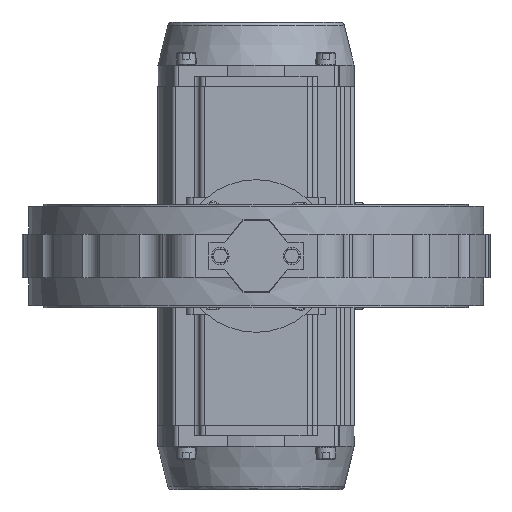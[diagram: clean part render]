
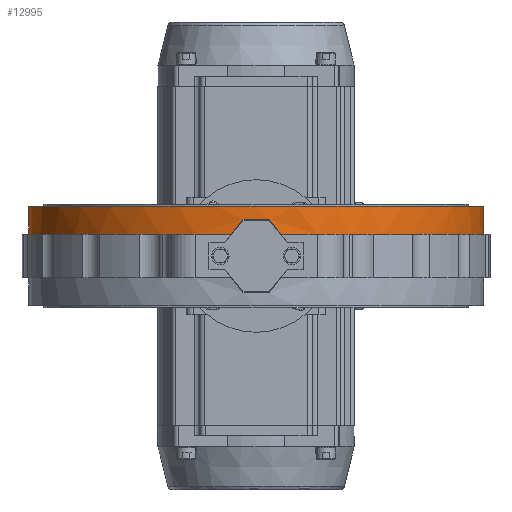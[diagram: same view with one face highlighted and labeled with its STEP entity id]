
A CAD part, front view. The second image highlights one B-rep face of the part: STEP entity #12995.
In plain terms, the highlighted cylindrical face has radius 261 mm (diameter 522 mm), a partial arc.
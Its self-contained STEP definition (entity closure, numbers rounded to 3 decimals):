
#35 = VERTEX_POINT ( 'NONE', #41677 ) ;
#277 = DIRECTION ( 'NONE',  ( 0., 0., 1. ) ) ;
#759 = VERTEX_POINT ( 'NONE', #25142 ) ;
#1451 = AXIS2_PLACEMENT_3D ( 'NONE', #6563, #46770, #39123 ) ;
#2191 = CIRCLE ( 'NONE', #31936, 261. ) ;
#2730 = CARTESIAN_POINT ( 'NONE',  ( -15., -260.569, 42. ) ) ;
#2979 = CARTESIAN_POINT ( 'NONE',  ( 261., 0., 57. ) ) ;
#3728 = CARTESIAN_POINT ( 'NONE',  ( 0., 0., 25. ) ) ;
#5530 = CIRCLE ( 'NONE', #6353, 261. ) ;
#5779 = ORIENTED_EDGE ( 'NONE', *, *, #27680, .F. ) ;
#6191 = CARTESIAN_POINT ( 'NONE',  ( 0., 0., 25. ) ) ;
#6353 = AXIS2_PLACEMENT_3D ( 'NONE', #6191, #38763, #24044 ) ;
#6370 = CARTESIAN_POINT ( 'NONE',  ( -28.222, -259.47, 25. ) ) ;
#6563 = CARTESIAN_POINT ( 'NONE',  ( 0., 0., 57. ) ) ;
#6961 = DIRECTION ( 'NONE',  ( 0., 0., 1. ) ) ;
#7083 = VERTEX_POINT ( 'NONE', #45964 ) ;
#7914 = LINE ( 'NONE', #28547, #45807 ) ;
#8288 = CARTESIAN_POINT ( 'NONE',  ( 19.416, -260.314, 36.322 ) ) ;
#8871 = CARTESIAN_POINT ( 'NONE',  ( -261., 0., 25. ) ) ;
#9398 =( BOUNDED_CURVE ( )  B_SPLINE_CURVE ( 3, ( #2730, #27624, #13176, #6370 ),
 .UNSPECIFIED., .F., .F. ) 
 B_SPLINE_CURVE_WITH_KNOTS ( ( 4, 4 ),
 ( 1.628, 1.679 ),
 .UNSPECIFIED. ) 
 CURVE ( )  GEOMETRIC_REPRESENTATION_ITEM ( )  RATIONAL_B_SPLINE_CURVE ( ( 1., 1., 1., 1. ) ) 
 REPRESENTATION_ITEM ( '' )  );
#12376 = CYLINDRICAL_SURFACE ( 'NONE', #32935, 261. ) ;
#12995 = ADVANCED_FACE ( 'NONE', ( #22032 ), #12376, .T. ) ;
#13176 = CARTESIAN_POINT ( 'NONE',  ( -23.825, -259.948, 30.654 ) ) ;
#14993 = EDGE_CURVE ( 'NONE', #7083, #36765, #25304, .T. ) ;
#15391 = CARTESIAN_POINT ( 'NONE',  ( 15., -260.569, 42. ) ) ;
#18068 = DIRECTION ( 'NONE',  ( 1., 0., 0. ) ) ;
#18116 = CARTESIAN_POINT ( 'NONE',  ( -28.222, -259.47, 25. ) ) ;
#18212 = ORIENTED_EDGE ( 'NONE', *, *, #45244, .T. ) ;
#18724 = EDGE_CURVE ( 'NONE', #36765, #35, #39173, .T. ) ;
#19730 = ORIENTED_EDGE ( 'NONE', *, *, #37960, .T. ) ;
#19761 = CARTESIAN_POINT ( 'NONE',  ( 0., 0., 42. ) ) ;
#19995 = VECTOR ( 'NONE', #6961, 1000. ) ;
#20050 = EDGE_CURVE ( 'NONE', #43255, #44476, #20080, .T. ) ;
#20080 = CIRCLE ( 'NONE', #1451, 261. ) ;
#21267 = EDGE_CURVE ( 'NONE', #29890, #43255, #33094, .T. ) ;
#21754 = DIRECTION ( 'NONE',  ( 0., 0., 1. ) ) ;
#22032 = FACE_OUTER_BOUND ( 'NONE', #30500, .T. ) ;
#22549 = CARTESIAN_POINT ( 'NONE',  ( 28.222, -259.47, 25. ) ) ;
#24044 = DIRECTION ( 'NONE',  ( 1., 0., 0. ) ) ;
#25142 = CARTESIAN_POINT ( 'NONE',  ( 261., 0., 25. ) ) ;
#25304 =( BOUNDED_CURVE ( )  B_SPLINE_CURVE ( 3, ( #22549, #37549, #8288, #44205 ),
 .UNSPECIFIED., .F., .F. ) 
 B_SPLINE_CURVE_WITH_KNOTS ( ( 4, 4 ),
 ( 4.604, 4.655 ),
 .UNSPECIFIED. ) 
 CURVE ( )  GEOMETRIC_REPRESENTATION_ITEM ( )  RATIONAL_B_SPLINE_CURVE ( ( 1., 1., 1., 1. ) ) 
 REPRESENTATION_ITEM ( '' )  );
#26430 = ORIENTED_EDGE ( 'NONE', *, *, #18724, .F. ) ;
#26948 = DIRECTION ( 'NONE',  ( 0., 0., -1. ) ) ;
#27258 = DIRECTION ( 'NONE',  ( 1., 0., 0. ) ) ;
#27535 = EDGE_CURVE ( 'NONE', #7083, #759, #2191, .T. ) ;
#27624 = CARTESIAN_POINT ( 'NONE',  ( -19.416, -260.314, 36.322 ) ) ;
#27680 = EDGE_CURVE ( 'NONE', #35, #29292, #9398, .T. ) ;
#28547 = CARTESIAN_POINT ( 'NONE',  ( 261., 0., 57. ) ) ;
#28623 = CARTESIAN_POINT ( 'NONE',  ( 0., 0., 57. ) ) ;
#29292 = VERTEX_POINT ( 'NONE', #18116 ) ;
#29890 = VERTEX_POINT ( 'NONE', #8871 ) ;
#30500 = EDGE_LOOP ( 'NONE', ( #40291, #18212, #5779, #26430, #37078, #33469, #19730, #45968 ) ) ;
#31936 = AXIS2_PLACEMENT_3D ( 'NONE', #3728, #21754, #18068 ) ;
#32935 = AXIS2_PLACEMENT_3D ( 'NONE', #28623, #277, #36502 ) ;
#33094 = LINE ( 'NONE', #35774, #19995 ) ;
#33437 = CARTESIAN_POINT ( 'NONE',  ( -261., 0., 57. ) ) ;
#33469 = ORIENTED_EDGE ( 'NONE', *, *, #27535, .T. ) ;
#35774 = CARTESIAN_POINT ( 'NONE',  ( -261., 0., 57. ) ) ;
#36113 = DIRECTION ( 'NONE',  ( 0., 0., 1. ) ) ;
#36502 = DIRECTION ( 'NONE',  ( 1., 0., 0. ) ) ;
#36560 = AXIS2_PLACEMENT_3D ( 'NONE', #19761, #26948, #27258 ) ;
#36765 = VERTEX_POINT ( 'NONE', #15391 ) ;
#37078 = ORIENTED_EDGE ( 'NONE', *, *, #14993, .F. ) ;
#37549 = CARTESIAN_POINT ( 'NONE',  ( 23.825, -259.948, 30.654 ) ) ;
#37960 = EDGE_CURVE ( 'NONE', #759, #44476, #7914, .T. ) ;
#38763 = DIRECTION ( 'NONE',  ( 0., 0., 1. ) ) ;
#39123 = DIRECTION ( 'NONE',  ( 1., 0., 0. ) ) ;
#39173 = CIRCLE ( 'NONE', #36560, 261. ) ;
#40291 = ORIENTED_EDGE ( 'NONE', *, *, #21267, .F. ) ;
#41677 = CARTESIAN_POINT ( 'NONE',  ( -15., -260.569, 42. ) ) ;
#43255 = VERTEX_POINT ( 'NONE', #33437 ) ;
#44205 = CARTESIAN_POINT ( 'NONE',  ( 15., -260.569, 42. ) ) ;
#44476 = VERTEX_POINT ( 'NONE', #2979 ) ;
#45244 = EDGE_CURVE ( 'NONE', #29890, #29292, #5530, .T. ) ;
#45807 = VECTOR ( 'NONE', #36113, 1000. ) ;
#45964 = CARTESIAN_POINT ( 'NONE',  ( 28.222, -259.47, 25. ) ) ;
#45968 = ORIENTED_EDGE ( 'NONE', *, *, #20050, .F. ) ;
#46770 = DIRECTION ( 'NONE',  ( 0., 0., 1. ) ) ;
